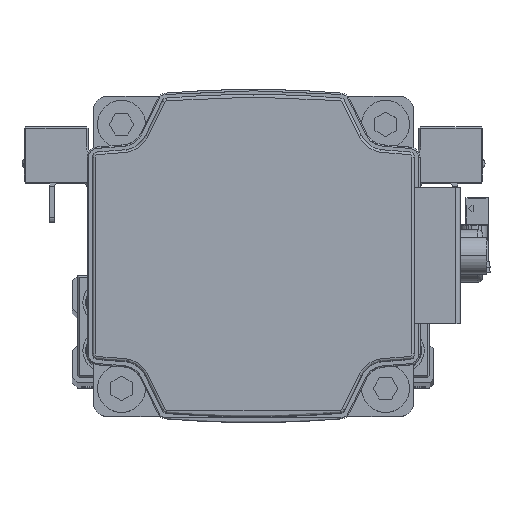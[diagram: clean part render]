
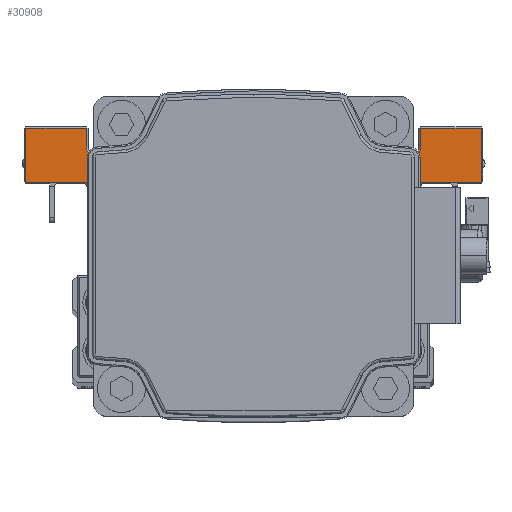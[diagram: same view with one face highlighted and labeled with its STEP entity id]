
A CAD part, top view. The second image highlights one B-rep face of the part: STEP entity #30908.
In plain terms, the highlighted planar face has unit normal (0, 0, 1) as drawn and (1, 0, 0) by its records, which use the part's own axes.
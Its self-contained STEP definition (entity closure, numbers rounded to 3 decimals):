
#1258 = VERTEX_POINT ( 'NONE', #1264 ) ;
#1264 = CARTESIAN_POINT ( 'NONE',  ( 25.5, 12.7, -30. ) ) ;
#2085 = DIRECTION ( 'NONE',  ( 0., 0., 1. ) ) ;
#2254 = EDGE_CURVE ( 'NONE', #36603, #11079, #35546, .T. ) ;
#2906 = VECTOR ( 'NONE', #24606, 1000. ) ;
#3241 = DIRECTION ( 'NONE',  ( 0., 0., 1. ) ) ;
#3260 = LINE ( 'NONE', #15928, #33422 ) ;
#3419 = ORIENTED_EDGE ( 'NONE', *, *, #12641, .T. ) ;
#3576 = CARTESIAN_POINT ( 'NONE',  ( 25.5, 14., 30. ) ) ;
#3943 = CARTESIAN_POINT ( 'NONE',  ( 25.5, 17.7, 31.3 ) ) ;
#4400 = CIRCLE ( 'NONE', #27595, 2. ) ;
#4531 = VERTEX_POINT ( 'NONE', #30454 ) ;
#4938 = ORIENTED_EDGE ( 'NONE', *, *, #28709, .F. ) ;
#5099 = EDGE_CURVE ( 'NONE', #40138, #10385, #22453, .T. ) ;
#5290 = DIRECTION ( 'NONE',  ( -1., 0., 0. ) ) ;
#5757 = DIRECTION ( 'NONE',  ( 0., -1., 0. ) ) ;
#5780 = CARTESIAN_POINT ( 'NONE',  ( 25.5, 5.5, -15. ) ) ;
#5928 = ORIENTED_EDGE ( 'NONE', *, *, #38393, .T. ) ;
#6678 = DIRECTION ( 'NONE',  ( 0., 0., -1. ) ) ;
#6871 = VECTOR ( 'NONE', #11351, 1000. ) ;
#7116 = CARTESIAN_POINT ( 'NONE',  ( 25.5, 7.5, -42.7 ) ) ;
#7297 = CARTESIAN_POINT ( 'NONE',  ( 25.5, 7.5, 17. ) ) ;
#7468 = LINE ( 'NONE', #20122, #25865 ) ;
#7622 = CARTESIAN_POINT ( 'NONE',  ( 25.5, 5.5, 17. ) ) ;
#7682 = ORIENTED_EDGE ( 'NONE', *, *, #22609, .T. ) ;
#8339 = VECTOR ( 'NONE', #11299, 1000. ) ;
#8401 = FACE_OUTER_BOUND ( 'NONE', #40113, .T. ) ;
#8504 = ORIENTED_EDGE ( 'NONE', *, *, #24783, .T. ) ;
#9267 = DIRECTION ( 'NONE',  ( 0., 0., 1. ) ) ;
#9528 = LINE ( 'NONE', #22191, #29332 ) ;
#9775 = LINE ( 'NONE', #22439, #36101 ) ;
#9989 = ORIENTED_EDGE ( 'NONE', *, *, #2254, .T. ) ;
#10177 = CARTESIAN_POINT ( 'NONE',  ( 25.5, 7.5, 42.7 ) ) ;
#10385 = VERTEX_POINT ( 'NONE', #7297 ) ;
#11079 = VERTEX_POINT ( 'NONE', #37882 ) ;
#11192 = DIRECTION ( 'NONE',  ( 0., 1., 0. ) ) ;
#11299 = DIRECTION ( 'NONE',  ( 0., -1., 0. ) ) ;
#11351 = DIRECTION ( 'NONE',  ( 0., 0., -1. ) ) ;
#11544 = CARTESIAN_POINT ( 'NONE',  ( 25.5, -7.5, 15. ) ) ;
#11950 = CARTESIAN_POINT ( 'NONE',  ( 25.5, 7.5, 43. ) ) ;
#12120 = VERTEX_POINT ( 'NONE', #3943 ) ;
#12600 = CARTESIAN_POINT ( 'NONE',  ( 25.5, 7.5, -17. ) ) ;
#12641 = EDGE_CURVE ( 'NONE', #10385, #20755, #38319, .T. ) ;
#13054 = ORIENTED_EDGE ( 'NONE', *, *, #33071, .T. ) ;
#13600 = CARTESIAN_POINT ( 'NONE',  ( 25.5, 17.7, -31.3 ) ) ;
#13824 = CIRCLE ( 'NONE', #37006, 1.3 ) ;
#14059 = AXIS2_PLACEMENT_3D ( 'NONE', #33716, #5290, #17948 ) ;
#14275 = AXIS2_PLACEMENT_3D ( 'NONE', #3576, #16254, #28887 ) ;
#15778 = EDGE_CURVE ( 'NONE', #4531, #12120, #26956, .T. ) ;
#15928 = CARTESIAN_POINT ( 'NONE',  ( 25.5, 7.5, -31.3 ) ) ;
#16254 = DIRECTION ( 'NONE',  ( -1., 0., 0. ) ) ;
#17876 = LINE ( 'NONE', #30522, #18909 ) ;
#17948 = DIRECTION ( 'NONE',  ( 0., 0., 1. ) ) ;
#18402 = VERTEX_POINT ( 'NONE', #18926 ) ;
#18854 = ORIENTED_EDGE ( 'NONE', *, *, #37759, .T. ) ;
#18909 = VECTOR ( 'NONE', #2085, 1000. ) ;
#18926 = CARTESIAN_POINT ( 'NONE',  ( 25.5, 12.7, 30. ) ) ;
#19018 = CARTESIAN_POINT ( 'NONE',  ( 25.5, 14., -30. ) ) ;
#19261 = EDGE_CURVE ( 'NONE', #23377, #40138, #21527, .T. ) ;
#19774 = DIRECTION ( 'NONE',  ( 0., 1., 0. ) ) ;
#20122 = CARTESIAN_POINT ( 'NONE',  ( 25.5, 7.5, -15. ) ) ;
#20275 = DIRECTION ( 'NONE',  ( -1., 0., 0. ) ) ;
#20291 = ORIENTED_EDGE ( 'NONE', *, *, #5099, .T. ) ;
#20420 = AXIS2_PLACEMENT_3D ( 'NONE', #7622, #20275, #32926 ) ;
#20715 = VECTOR ( 'NONE', #6678, 1000. ) ;
#20755 = VERTEX_POINT ( 'NONE', #36639 ) ;
#21059 = VECTOR ( 'NONE', #11192, 1000. ) ;
#21062 = PLANE ( 'NONE',  #14059 ) ;
#21191 = ORIENTED_EDGE ( 'NONE', *, *, #21746, .T. ) ;
#21326 = ORIENTED_EDGE ( 'NONE', *, *, #15778, .T. ) ;
#21527 = LINE ( 'NONE', #34187, #39633 ) ;
#21741 = ORIENTED_EDGE ( 'NONE', *, *, #25873, .T. ) ;
#21746 = EDGE_CURVE ( 'NONE', #36058, #28254, #3260, .T. ) ;
#22191 = CARTESIAN_POINT ( 'NONE',  ( 25.5, 12.7, 30. ) ) ;
#22439 = CARTESIAN_POINT ( 'NONE',  ( 25.5, 17.7, -15. ) ) ;
#22453 = LINE ( 'NONE', #35097, #20715 ) ;
#22538 = VECTOR ( 'NONE', #19774, 1000. ) ;
#22558 = ORIENTED_EDGE ( 'NONE', *, *, #27634, .T. ) ;
#22609 = EDGE_CURVE ( 'NONE', #12120, #23377, #17876, .T. ) ;
#22626 = ORIENTED_EDGE ( 'NONE', *, *, #19261, .T. ) ;
#23377 = VERTEX_POINT ( 'NONE', #32922 ) ;
#24606 = DIRECTION ( 'NONE',  ( 0., 0., -1. ) ) ;
#24783 = EDGE_CURVE ( 'NONE', #35768, #31958, #27122, .T. ) ;
#25036 = CARTESIAN_POINT ( 'NONE',  ( 25.5, 5.5, -17. ) ) ;
#25865 = VECTOR ( 'NONE', #32781, 1000. ) ;
#25873 = EDGE_CURVE ( 'NONE', #11079, #36058, #9775, .T. ) ;
#26766 = ORIENTED_EDGE ( 'NONE', *, *, #35808, .T. ) ;
#26879 = CARTESIAN_POINT ( 'NONE',  ( 25.5, -7.5, -15. ) ) ;
#26956 = LINE ( 'NONE', #39613, #21059 ) ;
#27067 = LINE ( 'NONE', #39720, #8339 ) ;
#27122 = LINE ( 'NONE', #39776, #6871 ) ;
#27595 = AXIS2_PLACEMENT_3D ( 'NONE', #25036, #37693, #9267 ) ;
#27634 = EDGE_CURVE ( 'NONE', #37238, #31758, #4400, .T. ) ;
#28254 = VERTEX_POINT ( 'NONE', #39055 ) ;
#28560 = DIRECTION ( 'NONE',  ( 0., -1., 0. ) ) ;
#28709 = EDGE_CURVE ( 'NONE', #37238, #31958, #7468, .T. ) ;
#28887 = DIRECTION ( 'NONE',  ( 0., 0., 1. ) ) ;
#29332 = VECTOR ( 'NONE', #34843, 1000. ) ;
#30454 = CARTESIAN_POINT ( 'NONE',  ( 25.5, 14., 31.3 ) ) ;
#30522 = CARTESIAN_POINT ( 'NONE',  ( 25.5, 17.7, -15. ) ) ;
#30908 = ADVANCED_FACE ( 'NONE', ( #8401 ), #21062, .F. ) ;
#31667 = DIRECTION ( 'NONE',  ( -1., 0., 0. ) ) ;
#31758 = VERTEX_POINT ( 'NONE', #12600 ) ;
#31958 = VERTEX_POINT ( 'NONE', #26879 ) ;
#32149 = CIRCLE ( 'NONE', #14275, 1.3 ) ;
#32781 = DIRECTION ( 'NONE',  ( 0., -1., 0. ) ) ;
#32922 = CARTESIAN_POINT ( 'NONE',  ( 25.5, 17.7, 42.7 ) ) ;
#32926 = DIRECTION ( 'NONE',  ( 0., 0., 1. ) ) ;
#33071 = EDGE_CURVE ( 'NONE', #1258, #18402, #9528, .T. ) ;
#33422 = VECTOR ( 'NONE', #28560, 1000. ) ;
#33716 = CARTESIAN_POINT ( 'NONE',  ( 25.5, 7.5, -15. ) ) ;
#34187 = CARTESIAN_POINT ( 'NONE',  ( 25.5, 7.5, 42.7 ) ) ;
#34843 = DIRECTION ( 'NONE',  ( 0., 0., 1. ) ) ;
#35087 = DIRECTION ( 'NONE',  ( 0., 0., 1. ) ) ;
#35097 = CARTESIAN_POINT ( 'NONE',  ( 25.5, 7.5, 43. ) ) ;
#35546 = LINE ( 'NONE', #7116, #22538 ) ;
#35768 = VERTEX_POINT ( 'NONE', #11544 ) ;
#35808 = EDGE_CURVE ( 'NONE', #31758, #36603, #40375, .T. ) ;
#36058 = VERTEX_POINT ( 'NONE', #13600 ) ;
#36101 = VECTOR ( 'NONE', #35087, 1000. ) ;
#36131 = CARTESIAN_POINT ( 'NONE',  ( 25.5, 7.5, -42.7 ) ) ;
#36603 = VERTEX_POINT ( 'NONE', #36131 ) ;
#36639 = CARTESIAN_POINT ( 'NONE',  ( 25.5, 5.5, 15. ) ) ;
#37006 = AXIS2_PLACEMENT_3D ( 'NONE', #19018, #31667, #3241 ) ;
#37238 = VERTEX_POINT ( 'NONE', #5780 ) ;
#37693 = DIRECTION ( 'NONE',  ( -1., 0., 0. ) ) ;
#37759 = EDGE_CURVE ( 'NONE', #18402, #4531, #32149, .T. ) ;
#37882 = CARTESIAN_POINT ( 'NONE',  ( 25.5, 17.7, -42.7 ) ) ;
#38319 = CIRCLE ( 'NONE', #20420, 2. ) ;
#38393 = EDGE_CURVE ( 'NONE', #20755, #35768, #27067, .T. ) ;
#39055 = CARTESIAN_POINT ( 'NONE',  ( 25.5, 14., -31.3 ) ) ;
#39550 = ORIENTED_EDGE ( 'NONE', *, *, #40945, .T. ) ;
#39613 = CARTESIAN_POINT ( 'NONE',  ( 25.5, 7.5, 31.3 ) ) ;
#39633 = VECTOR ( 'NONE', #5757, 1000. ) ;
#39720 = CARTESIAN_POINT ( 'NONE',  ( 25.5, 7.5, 15. ) ) ;
#39776 = CARTESIAN_POINT ( 'NONE',  ( 25.5, -7.5, -15. ) ) ;
#40113 = EDGE_LOOP ( 'NONE', ( #26766, #9989, #21741, #21191, #39550, #13054, #18854, #21326, #7682, #22626, #20291, #3419, #5928, #8504, #4938, #22558 ) ) ;
#40138 = VERTEX_POINT ( 'NONE', #10177 ) ;
#40375 = LINE ( 'NONE', #11950, #2906 ) ;
#40945 = EDGE_CURVE ( 'NONE', #28254, #1258, #13824, .T. ) ;
